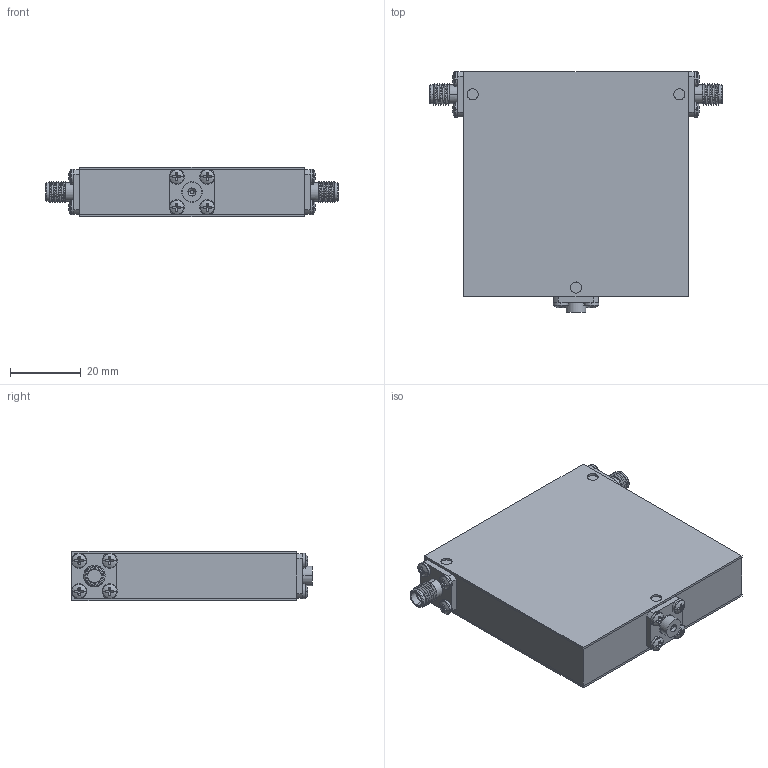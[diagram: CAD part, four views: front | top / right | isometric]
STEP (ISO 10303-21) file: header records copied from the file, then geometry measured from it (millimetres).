
FILE_DESCRIPTION (( 'STEP AP214' ), '1' );
FILE_NAME ('D3I1530 2.5x2.5x0.55 FF.step', '2021-12-01T20:56:01', ( '' ), ( '' ), 'SwSTEP 2.0', 'SolidWorks 2016', '' );
FILE_SCHEMA (( 'AUTOMOTIVE_DESIGN' ));
Length unit declared in the file: inch
Products named in the file (6): Delta SMA-Female 0.500 flange Threaded; 030013-1A Same Base thickness as connectors; D3I1525 2.5x2.475x0.45; pan cross head_ai_CR-PHMS 0.086-56x0.125x0.125-N; D3I1530 2.5x2.5x0.55 FF; D3I1525 2.5x2.5x0.55
Assembly tree (17 placements, depth 2):
  D3I1530 2.5x2.5x0.55 FF
    D3I1525 2.5x2.475x0.45
    D3I1525 2.5x2.5x0.55
    Delta SMA-Female 0.500 flange Threaded  x2
    030013-1A Same Base thickness as connectors
    pan cross head_ai_CR-PHMS 0.086-56x0.125x0.125-N  x12
Bounding box: 82.55 x 68.03 x 13.97 mm (x, y, z)
Volume: 57490.2 mm3; surface area: 31802.8 mm2
Topology: 17 solids, 17 shells, 414 faces, 942 edges, 582 vertices
Faces by surface type: plane 228, cylinder 122, torus 30, sphere 24, bspline 6, cone 4
Entity records: 4765 total; most frequent: CARTESIAN_POINT 1369, DIRECTION 717, ORIENTED_EDGE 594, EDGE_CURVE 297, AXIS2_PLACEMENT_3D 289, VERTEX_POINT 191, EDGE_LOOP 160, CIRCLE 150
